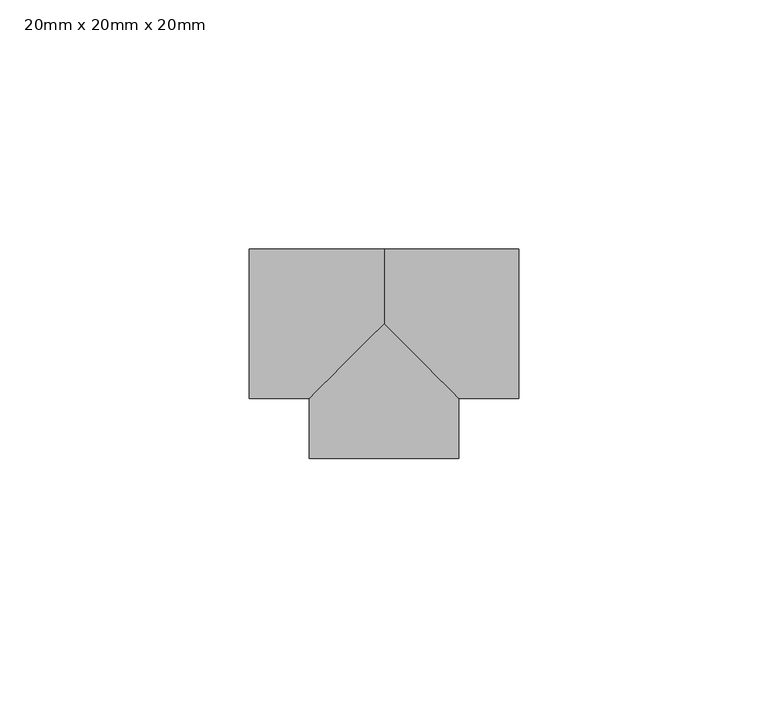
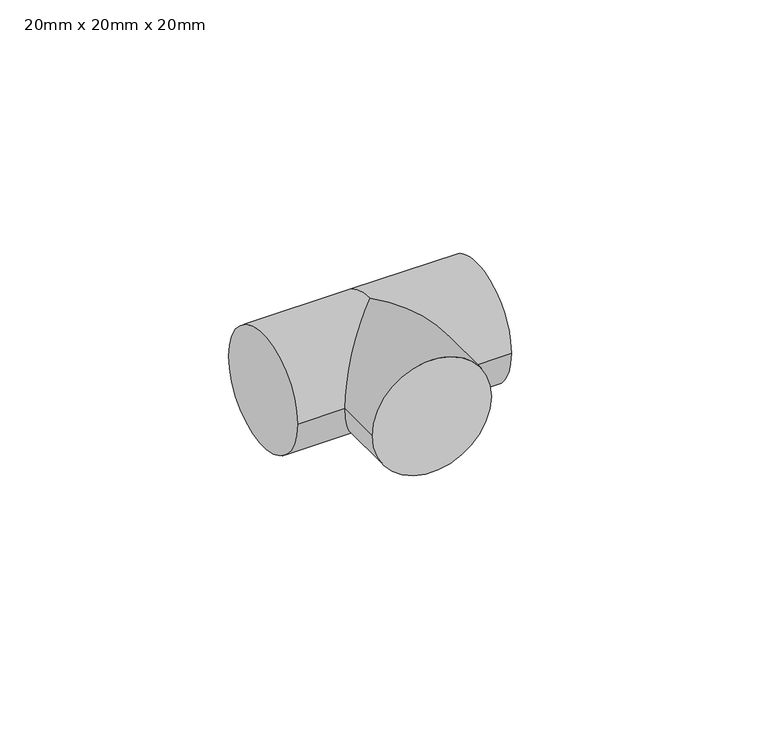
"""IFC4 building model written with IfcOpenShell, lengths in millimetres: pipe fitting geometry, PipeFitting_HTA_CPVC_Tees90° : 20mm x 20mm x 20mm."""

from ifc_helpers import new_model, si_unit, frame, origin, place, context, project, spatial, circle_curve, ellipse_curve, source, transform, mapped, element, save
from ifc_brep_helpers import plane_surface, cylinder_surface, advanced_brep


def pipe_fitting_20mm_x_20mm_x_20mm_d5b8d173(model_context):
    return source(origin(), model_context, "Body", "AdvancedBrep", [
        advanced_brep(
        [(-15.0, -27.0, 0.0), (15.0, -27.0, 0.0), (15.0, -15.0, 0.0), (0.0, 0.0, 15.0), (-15.0, -15.0, 0.0), (0.0, 0.0, -15.0), (-27.0, -15.0, 0.0), (-27.0, 15.0, 0.0), (0.0, 15.0, 0.0), (27.0, -15.0, 0.0), (27.0, 15.0, 0.0)],
        [
            (0, 1, circle_curve(frame((0.0, -27.0, 0.0), z_axis=(0.0, -1.0, 0.0), x_axis=(1.0, 0.0, 0.0)), 15.0)),
            (1, 0, circle_curve(frame((0.0, -27.0, 0.0), z_axis=(0.0, -1.0, 0.0), x_axis=(1.0, 0.0, 0.0)), 15.0)),
            (1, 2),
            (2, 3, ellipse_curve(frame((0.0, 0.0, 0.0), z_axis=(-0.7071067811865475, -0.7071067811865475, 0.0), x_axis=(-0.7071067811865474, 0.7071067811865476, 0.0)), 21.2132034, 15.0)),
            (3, 4, ellipse_curve(frame((0.0, 0.0, 0.0), z_axis=(0.7071067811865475, -0.7071067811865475, 0.0), x_axis=(0.7071067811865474, 0.7071067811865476, 0.0)), 21.2132034, 15.0)),
            (4, 0),
            (4, 5, ellipse_curve(frame((0.0, 0.0, 0.0), z_axis=(0.7071067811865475, -0.7071067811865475, 0.0), x_axis=(0.7071067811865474, 0.7071067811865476, 0.0)), 21.2132034, 15.0)),
            (5, 2, ellipse_curve(frame((0.0, 0.0, 0.0), z_axis=(-0.7071067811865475, -0.7071067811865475, 0.0), x_axis=(-0.7071067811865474, 0.7071067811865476, 0.0)), 21.2132034, 15.0)),
            (6, 7, circle_curve(frame((-27.0, 0.0, 0.0), z_axis=(-1.0, 0.0, 0.0), x_axis=(0.0, 1.0, 0.0)), 15.0)),
            (7, 6, circle_curve(frame((-27.0, 0.0, 0.0), z_axis=(-1.0, 0.0, 0.0), x_axis=(0.0, 1.0, 0.0)), 15.0)),
            (6, 4),
            (3, 8, circle_curve(frame((0.0, 0.0, 0.0), z_axis=(-1.0, 0.0, 0.0), x_axis=(0.0, 1.0, 0.0)), 15.0)),
            (8, 7),
            (8, 5, circle_curve(frame((0.0, 0.0, 0.0), z_axis=(-1.0, 0.0, 0.0), x_axis=(0.0, 1.0, 0.0)), 15.0)),
            (9, 10, circle_curve(frame((27.0, 0.0, 0.0), z_axis=(1.0, 0.0, 0.0), x_axis=(0.0, 1.0, 0.0)), 15.0)),
            (10, 9, circle_curve(frame((27.0, 0.0, 0.0), z_axis=(1.0, 0.0, 0.0), x_axis=(0.0, 1.0, 0.0)), 15.0)),
            (10, 8),
            (2, 9),
        ],
        [
            plane_surface(frame((0.0, -27.0, 0.0), z_axis=(0.0, -1.0, 0.0), x_axis=(0.0, 0.0, 1.0))),
            cylinder_surface(frame((0.0, 0.0, 0.0), z_axis=(0.0, 1.0, 0.0), x_axis=(1.0, 0.0, 0.0)), 15.0),
            plane_surface(frame((-27.0, 0.0, 0.0), z_axis=(-1.0, 0.0, 0.0), x_axis=(0.0, 0.0, 1.0))),
            cylinder_surface(frame((-27.0, 0.0, 0.0), z_axis=(-1.0, 0.0, 0.0), x_axis=(0.0, 1.0, 0.0)), 15.0),
            plane_surface(frame((27.0, 0.0, 0.0), z_axis=(1.0, 0.0, 0.0), x_axis=(0.0, 0.0, 1.0))),
            cylinder_surface(frame((0.0, 0.0, 0.0), z_axis=(-1.0, 0.0, 0.0), x_axis=(0.0, 1.0, 0.0)), 15.0),
        ],
        [
            (0, [[1, 2]]),
            (1, [[-2, 3, 4, 5, 6]]),
            (1, [[-1, -6, 7, 8, -3]]),
            (2, [[9, 10]]),
            (3, [[-9, 11, -5, 12, 13]]),
            (3, [[-10, -13, 14, -7, -11]]),
            (4, [[15, 16]]),
            (5, [[-16, 17, -12, -4, 18]]),
            (5, [[-15, -18, -8, -14, -17]]),
        ],
    ),
    ])


if __name__ == "__main__":
    model = new_model("IFC4")
    model_context = context("Model", 3, world=origin())
    ifc_project = project(units=[si_unit("LENGTHUNIT", "METRE", prefix="MILLI")], contexts=[model_context])
    site = spatial("IfcSite", under=ifc_project)
    building = spatial("IfcBuilding", under=site)
    placement = place(None, origin())
    pipe_fitting_20mm_x_20mm_x_20mm_shape = pipe_fitting_20mm_x_20mm_x_20mm_d5b8d173(model_context)
    element("IfcPipeFitting", 1, ObjectType="PipeFitting_HTA_CPVC_Tees90° : 20mm x 20mm x 20mm", at=placement, inside=building, context=model_context, shape_type="MappedRepresentation", body=[
        mapped(pipe_fitting_20mm_x_20mm_x_20mm_shape, transform((0.0, 0.0, 0.0), x_axis=(1.0, 0.0, 0.0), y_axis=(0.0, 1.0, 0.0), z_axis=(0.0, 0.0, 1.0))),
    ])
    save(model, "model.ifc")
